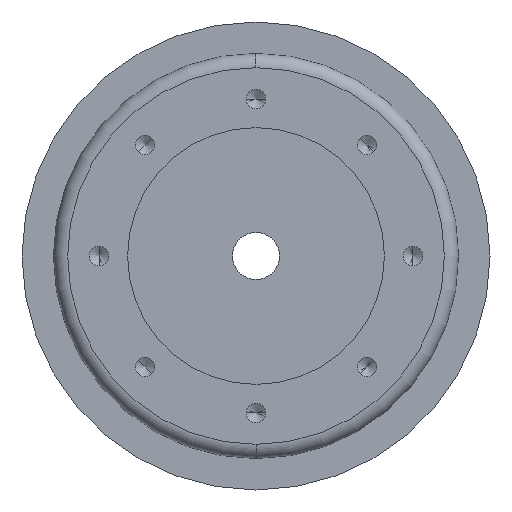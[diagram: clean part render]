
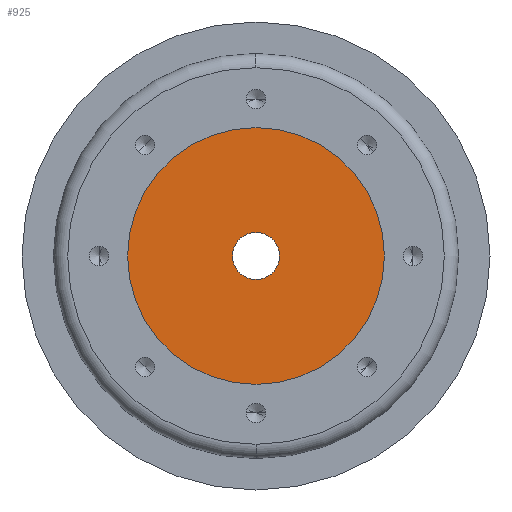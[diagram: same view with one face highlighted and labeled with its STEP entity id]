
A CAD part, left-side view. The second image highlights one B-rep face of the part: STEP entity #925.
In plain terms, the highlighted planar face has unit normal (-1, 0, 0).
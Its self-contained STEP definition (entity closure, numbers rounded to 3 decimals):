
#11 = VERTEX_POINT ( 'NONE', #979 ) ;
#40 = VERTEX_POINT ( 'NONE', #1231 ) ;
#42 = VERTEX_POINT ( 'NONE', #1225 ) ;
#65 = VERTEX_POINT ( 'NONE', #1111 ) ;
#74 = EDGE_CURVE ( 'NONE', #65, #11, #1183, .T. ) ;
#366 = EDGE_CURVE ( 'NONE', #42, #40, #1552, .T. ) ;
#402 = EDGE_CURVE ( 'NONE', #40, #42, #1852, .T. ) ;
#852 = EDGE_LOOP ( 'NONE', ( #892, #893 ) ) ;
#857 = EDGE_LOOP ( 'NONE', ( #885, #886 ) ) ;
#884 = EDGE_CURVE ( 'NONE', #11, #65, #2796, .T. ) ;
#885 = ORIENTED_EDGE ( 'NONE', *, *, #884, .F. ) ;
#886 = ORIENTED_EDGE ( 'NONE', *, *, #74, .F. ) ;
#892 = ORIENTED_EDGE ( 'NONE', *, *, #402, .T. ) ;
#893 = ORIENTED_EDGE ( 'NONE', *, *, #366, .T. ) ;
#925 = ADVANCED_FACE ( 'NONE', ( #2773, #2772 ), #2771, .F. ) ;
#979 = CARTESIAN_POINT ( 'NONE',  ( 15., 0., 8.25 ) ) ;
#1096 = CARTESIAN_POINT ( 'NONE',  ( 15., 0., 0. ) ) ;
#1111 = CARTESIAN_POINT ( 'NONE',  ( 15., 0., -8.25 ) ) ;
#1180 = DIRECTION ( 'NONE',  ( 0., 0., 1. ) ) ;
#1181 = DIRECTION ( 'NONE',  ( -1., 0., 0. ) ) ;
#1182 = AXIS2_PLACEMENT_3D ( 'NONE', #1096, #1181, #1180 ) ;
#1183 = CIRCLE ( 'NONE', #1182, 8.25 ) ;
#1225 = CARTESIAN_POINT ( 'NONE',  ( 15., 0., -45. ) ) ;
#1231 = CARTESIAN_POINT ( 'NONE',  ( 15., 0., 45. ) ) ;
#1548 = DIRECTION ( 'NONE',  ( 0., 0., 1. ) ) ;
#1549 = DIRECTION ( 'NONE',  ( -1., 0., 0. ) ) ;
#1550 = CARTESIAN_POINT ( 'NONE',  ( 15., 0., 0. ) ) ;
#1551 = AXIS2_PLACEMENT_3D ( 'NONE', #1550, #1549, #1548 ) ;
#1552 = CIRCLE ( 'NONE', #1551, 45. ) ;
#1848 = DIRECTION ( 'NONE',  ( 0., 0., 1. ) ) ;
#1849 = DIRECTION ( 'NONE',  ( -1., 0., 0. ) ) ;
#1850 = CARTESIAN_POINT ( 'NONE',  ( 15., 0., 0. ) ) ;
#1851 = AXIS2_PLACEMENT_3D ( 'NONE', #1850, #1849, #1848 ) ;
#1852 = CIRCLE ( 'NONE', #1851, 45. ) ;
#2767 = DIRECTION ( 'NONE',  ( 0., 0., -1. ) ) ;
#2768 = DIRECTION ( 'NONE',  ( 1., 0., 0. ) ) ;
#2769 = CARTESIAN_POINT ( 'NONE',  ( 15., 45., 0. ) ) ;
#2770 = AXIS2_PLACEMENT_3D ( 'NONE', #2769, #2768, #2767 ) ;
#2771 = PLANE ( 'NONE',  #2770 ) ;
#2772 = FACE_OUTER_BOUND ( 'NONE', #852, .T. ) ;
#2773 = FACE_BOUND ( 'NONE', #857, .T. ) ;
#2792 = DIRECTION ( 'NONE',  ( 0., 0., 1. ) ) ;
#2793 = DIRECTION ( 'NONE',  ( -1., 0., 0. ) ) ;
#2794 = CARTESIAN_POINT ( 'NONE',  ( 15., 0., 0. ) ) ;
#2795 = AXIS2_PLACEMENT_3D ( 'NONE', #2794, #2793, #2792 ) ;
#2796 = CIRCLE ( 'NONE', #2795, 8.25 ) ;
